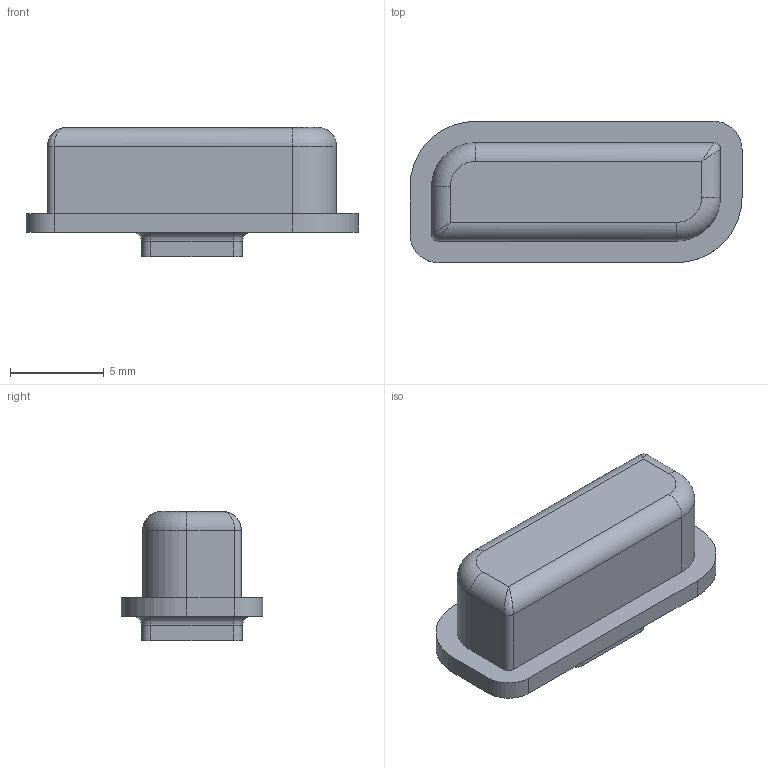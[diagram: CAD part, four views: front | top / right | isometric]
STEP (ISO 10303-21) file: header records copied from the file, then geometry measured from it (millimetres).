
FILE_DESCRIPTION(/* description */ (''),/* implementation_level */ '2;1');
FILE_NAME(/* name */ 'Exploiteers_Hacker_Pager_V107_Right_Button_step.stp',/* time_stamp */ '2026-06-11T15:12:59-04:00',/* author */ 'SGX',/* organization */ 'Exploiteers',/* preprocessor_version */ 'ST-DEVELOPER v20.1',/* originating_system */ 'Autodesk Translation Framework v15.8.0.0',/* authorisation */ '');
FILE_SCHEMA (('AUTOMOTIVE_DESIGN { 1 0 10303 214 3 1 1 }'));
Length unit declared in the file: millimetre
Products named in the file (1): Right_Button
Bounding box: 17.75 x 7.56 x 6.9 mm (x, y, z)
Volume: 521.2 mm3; surface area: 487.4 mm2
Topology: 1 solids, 1 shells, 44 faces, 104 edges, 62 vertices
Faces by surface type: cylinder 20, plane 16, torus 6, bspline 2
Entity records: 1323 total; most frequent: CARTESIAN_POINT 257, DIRECTION 234, ORIENTED_EDGE 204, EDGE_CURVE 102, AXIS2_PLACEMENT_3D 89, VERTEX_POINT 62, LINE 56, VECTOR 56
